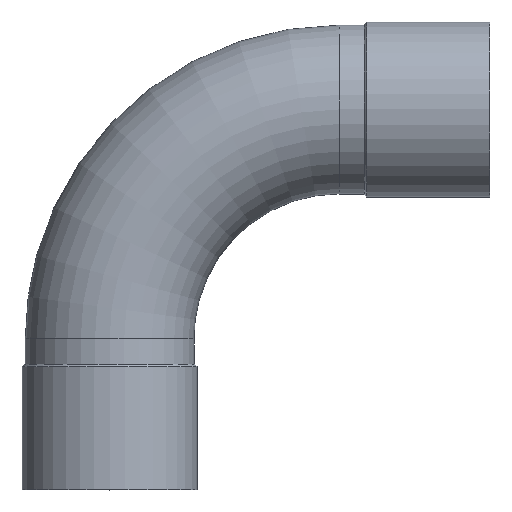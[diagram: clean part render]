
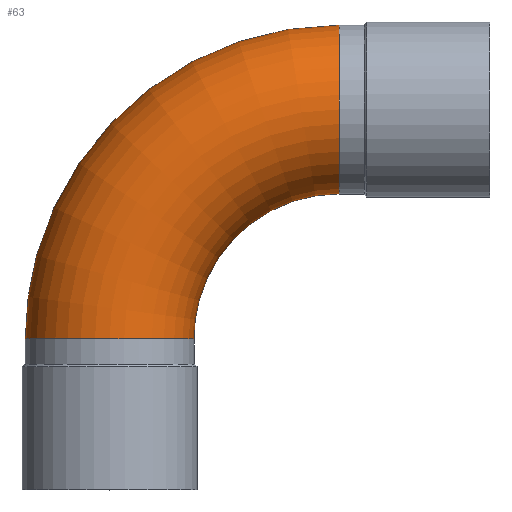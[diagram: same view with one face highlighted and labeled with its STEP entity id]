
A CAD part, top view. The second image highlights one B-rep face of the part: STEP entity #63.
In plain terms, the highlighted toroidal (fillet/blend) face has major radius 190 mm and minor radius 69.85 mm.
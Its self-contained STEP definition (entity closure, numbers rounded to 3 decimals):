
#63 = ADVANCED_FACE( '', ( #134, #135 ), #136, .T. );
#134 = FACE_OUTER_BOUND( '', #207, .T. );
#135 = FACE_OUTER_BOUND( '', #208, .T. );
#136 = TOROIDAL_SURFACE( '', #209, 190., 69.85 );
#207 = EDGE_LOOP( '', ( #296 ) );
#208 = EDGE_LOOP( '', ( #297 ) );
#209 = AXIS2_PLACEMENT_3D( '', #298, #299, #300 );
#296 = ORIENTED_EDGE( '', *, *, #336, .F. );
#297 = ORIENTED_EDGE( '', *, *, #358, .T. );
#298 = CARTESIAN_POINT( '', ( 190., 0., 0. ) );
#299 = DIRECTION( '', ( 0., 0., 1. ) );
#300 = DIRECTION( '', ( 1., 0., 0. ) );
#336 = EDGE_CURVE( '', #372, #372, #373, .T. );
#358 = EDGE_CURVE( '', #406, #406, #407, .T. );
#372 = VERTEX_POINT( '', #421 );
#373 = CIRCLE( '', #422, 69.85 );
#406 = VERTEX_POINT( '', #455 );
#407 = CIRCLE( '', #456, 69.85 );
#421 = CARTESIAN_POINT( '', ( 190., 120.15, 0. ) );
#422 = AXIS2_PLACEMENT_3D( '', #471, #472, #473 );
#455 = CARTESIAN_POINT( '', ( 0., 0., 69.85 ) );
#456 = AXIS2_PLACEMENT_3D( '', #507, #508, #509 );
#471 = CARTESIAN_POINT( '', ( 190., 190., 0. ) );
#472 = DIRECTION( '', ( 1., 0., 0. ) );
#473 = DIRECTION( '', ( 0., -1., 0. ) );
#507 = CARTESIAN_POINT( '', ( 0., 0., 0. ) );
#508 = DIRECTION( '', ( 0., 1., 0. ) );
#509 = DIRECTION( '', ( 0., 0., 1. ) );
